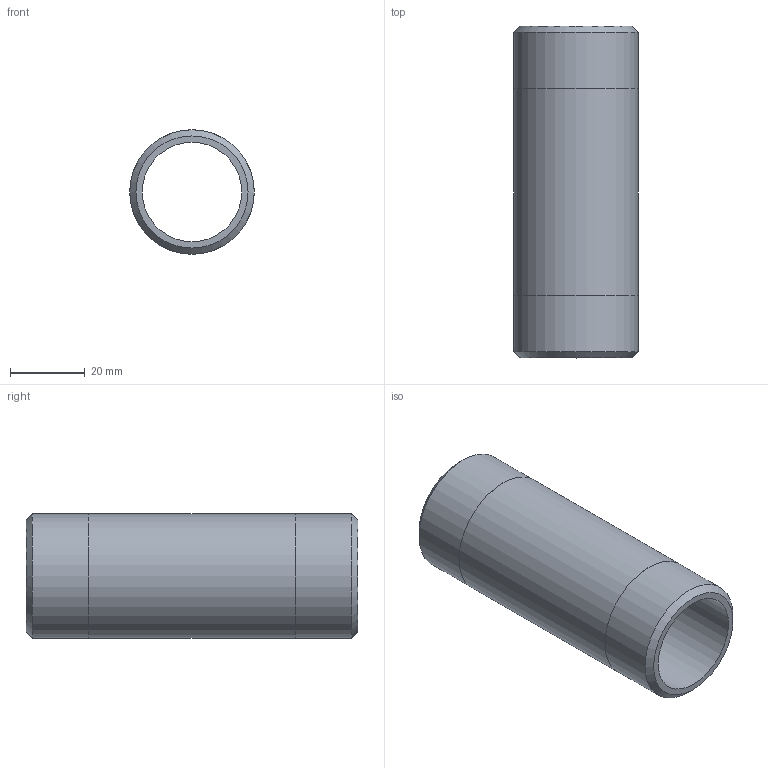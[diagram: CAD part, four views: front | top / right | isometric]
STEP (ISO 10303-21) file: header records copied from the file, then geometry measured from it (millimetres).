
FILE_DESCRIPTION(/* description */ (''),/* implementation_level */ '2;1');
FILE_NAME(/* name */ 'C:/Users/drich/Desktop/BPN1-3-1_2 v1.step',/* time_stamp */ '2020-01-03T14:15:39-06:00',/* author */ (''),/* organization */ (''),/* preprocessor_version */ 'ST-DEVELOPER v18',/* originating_system */ 'Autodesk Translation Framework v8.12.0.6',/* authorisation */ '');
FILE_SCHEMA (('AUTOMOTIVE_DESIGN { 1 0 10303 214 3 1 1 }'));
Length unit declared in the file: inch
Products named in the file (1): BPN1-3-1_2
Bounding box: 33.4 x 88.9 x 33.4 mm (x, y, z)
Volume: 27960.6 mm3; surface area: 17192.1 mm2
Topology: 1 solids, 1 shells, 10 faces, 24 edges, 18 vertices
Faces by surface type: cylinder 4, plane 4, cone 2
Full cylindrical faces by diameter (mm): 26.645 x1, 33.35 x2, 33.401 x1
Entity records: 360 total; most frequent: DIRECTION 64, CARTESIAN_POINT 53, ORIENTED_EDGE 48, AXIS2_PLACEMENT_3D 29, EDGE_CURVE 24, CIRCLE 18, VERTEX_POINT 18, EDGE_LOOP 14
